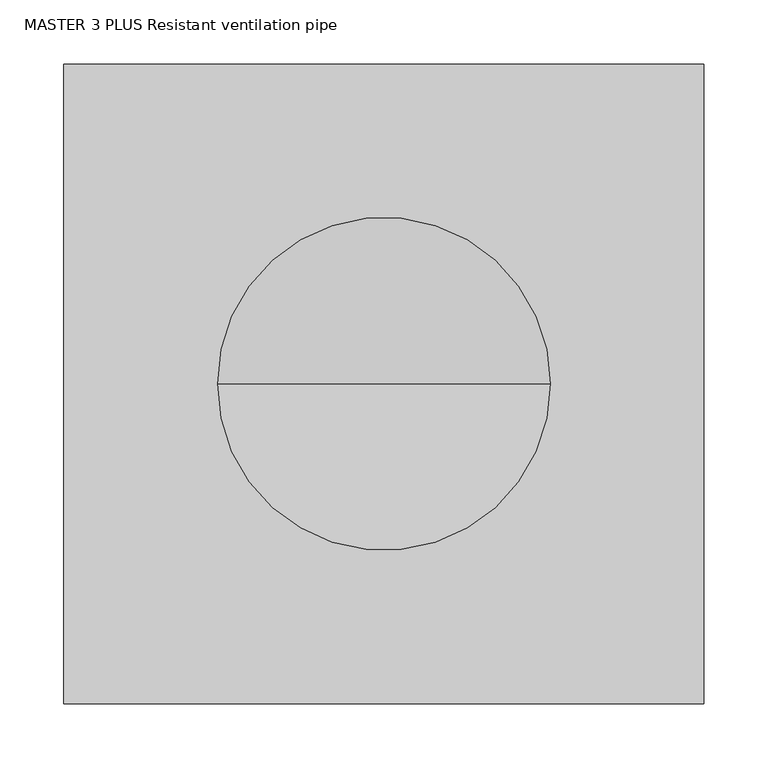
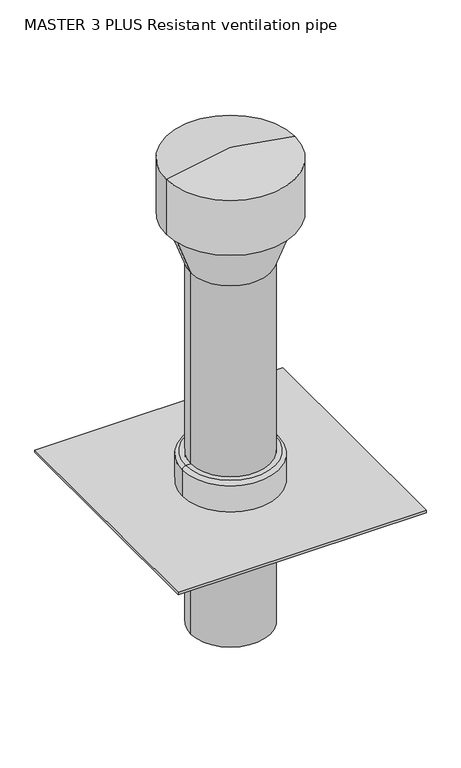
"""IFC4 building model written with IfcOpenShell, lengths in millimetres: valve geometry, MASTER 3 PLUS Resistant ventilation pipe : DN160, Lesp = 300, L3 = 710 mm."""

from ifc_helpers import new_model, si_unit, point, frame, origin, origin_with_axes, origin_2d, place, context, project, spatial, polyline, circle_curve, ellipse_curve, trimmed, segment, composite_curve, outline, extrude, source, transform, mapped, element, save
from ifc_brep_helpers import plane_surface, cylinder_surface, revolved_surface, advanced_brep


def master_3_plus_resistant_ventilation_pipe_50657e44(model_context):
    return source(origin(), model_context, "Body", "SolidModel", [
        extrude(outline(polyline([(250.0, 250.0), (250.0, -250.0), (-250.0, -250.0), (-250.0, 250.0), (250.0, 250.0)]), holes=[composite_curve([segment(trimmed(circle_curve(origin_2d(), 80.0), [point((-80.0, 0.0))], [point((80.0, 0.0))], True, "CARTESIAN"), True, "CONTINUOUS"), segment(trimmed(circle_curve(origin_2d(), 80.0), [point((80.0, 0.0))], [point((-80.0, 0.0))], True, "CARTESIAN"), True, "CONTINUOUS")], self_intersect=False)]), frame((0.0, 0.0, 294.9838403), z_axis=(0.0, 0.0, 1.0), x_axis=(1.0, 0.0, 0.0)), (0.0, 0.0, 1.0), 5.0161597),
        advanced_brep(
        [(97.5, 0.0, 300.0), (-97.5, 0.0, 300.0), (-97.5, 0.0, 355.75), (97.5, 0.0, 355.75), (80.0, 0.0, 300.0), (-80.0, 0.0, 300.0), (80.0, 0.0, 363.0), (-80.0, 0.0, 363.0), (90.25, 0.0, 363.0), (-90.25, 0.0, 363.0)],
        [
            (0, 1, circle_curve(frame((0.0, 0.0, 300.0), z_axis=(0.0, 0.0, 1.0), x_axis=(-1.0, 0.0, 0.0)), 97.5)),
            (1, 2),
            (2, 3, circle_curve(frame((0.0, 0.0, 355.75), z_axis=(0.0, 0.0, -1.0), x_axis=(-1.0, 0.0, 0.0)), 97.5)),
            (3, 0),
            (1, 0, circle_curve(frame((0.0, 0.0, 300.0), z_axis=(0.0, 0.0, 1.0), x_axis=(-1.0, 0.0, 0.0)), 97.5)),
            (3, 2, circle_curve(frame((0.0, 0.0, 355.75), z_axis=(0.0, 0.0, -1.0), x_axis=(-1.0, 0.0, 0.0)), 97.5)),
            (4, 5, circle_curve(frame((0.0, 0.0, 300.0), z_axis=(0.0, 0.0, 1.0), x_axis=(-1.0, 0.0, 0.0)), 80.0)),
            (5, 1),
            (0, 4),
            (5, 4, circle_curve(frame((0.0, 0.0, 300.0), z_axis=(0.0, 0.0, 1.0), x_axis=(-1.0, 0.0, 0.0)), 80.0)),
            (6, 7, circle_curve(frame((0.0, 0.0, 363.0), z_axis=(0.0, 0.0, 1.0), x_axis=(-1.0, 0.0, 0.0)), 80.0)),
            (7, 5),
            (4, 6),
            (7, 6, circle_curve(frame((0.0, 0.0, 363.0), z_axis=(0.0, 0.0, 1.0), x_axis=(-1.0, 0.0, 0.0)), 80.0)),
            (8, 9, circle_curve(frame((0.0, 0.0, 363.0), z_axis=(0.0, 0.0, 1.0), x_axis=(-1.0, 0.0, 0.0)), 90.25)),
            (9, 7),
            (6, 8),
            (9, 8, circle_curve(frame((0.0, 0.0, 363.0), z_axis=(0.0, 0.0, 1.0), x_axis=(-1.0, 0.0, 0.0)), 90.25)),
            (2, 9, circle_curve(frame((-90.25, 0.0, 355.75), z_axis=(0.0, 1.0, 0.0), x_axis=(1.0, 0.0, 0.0)), 7.25)),
            (8, 3, circle_curve(frame((90.25, 0.0, 355.75), z_axis=(0.0, 1.0, 0.0), x_axis=(-1.0, 0.0, 0.0)), 7.25)),
        ],
        [
            cylinder_surface(frame((0.0, 0.0, 363.0), z_axis=(0.0, 0.0, -1.0), x_axis=(-1.0, 0.0, 0.0)), 97.5),
            plane_surface(frame((0.0, 0.0, 300.0), z_axis=(0.0, 0.0, -1.0), x_axis=(-1.0, 0.0, 0.0))),
            revolved_surface(polyline([(-80.0, 0.0, 300.0), (-80.0, 0.0, 363.0)]), (0.0, 0.0, 363.0), (0.0, 0.0, -1.0)),
            plane_surface(frame((0.0, 0.0, 363.0), z_axis=(0.0, 0.0, 1.0), x_axis=(-1.0, 0.0, 0.0))),
            revolved_surface(trimmed(ellipse_curve(frame((-90.25, 0.0, 355.75), z_axis=(0.0, -1.0, 0.0), x_axis=(1.0, 0.0, 0.0)), 7.25, 7.25), [point((-90.25, 0.0, 363.0))], [point((-97.5, 0.0, 355.75))], True, "CARTESIAN"), (0.0, 0.0, 363.0), (0.0, 0.0, -1.0)),
        ],
        [
            (0, [[1, 2, 3, 4]]),
            (0, [[5, -4, 6, -2]]),
            (1, [[7, 8, -1, 9]]),
            (1, [[10, -9, -5, -8]]),
            (2, [[11, 12, -7, 13]]),
            (2, [[14, -13, -10, -12]]),
            (3, [[15, 16, -11, 17]]),
            (3, [[18, -17, -14, -16]]),
            (4, [[-3, 19, -15, 20]]),
            (4, [[-6, -20, -18, -19]]),
        ],
    ),
        advanced_brep(
        [(80.0, 0.0, 770.0), (-80.0, 0.0, 770.0), (-116.3970234, 0.0, 870.0), (116.3970234, 0.0, 870.0), (0.0, 0.0, 770.0), (130.0, 0.0, 987.0774925), (-130.0, 0.0, 987.0774925), (0.0, 0.0, 1010.0), (130.0, 0.0, 870.0), (-130.0, 0.0, 870.0)],
        [
            (0, 1, circle_curve(frame((0.0, 0.0, 770.0), z_axis=(0.0, 0.0, 1.0), x_axis=(-1.0, 0.0, 0.0)), 80.0)),
            (1, 2),
            (2, 3, circle_curve(frame((0.0, 0.0, 870.0), z_axis=(0.0, 0.0, -1.0), x_axis=(-1.0, 0.0, 0.0)), 116.3970234)),
            (3, 0),
            (1, 0, circle_curve(frame((0.0, 0.0, 770.0), z_axis=(0.0, 0.0, 1.0), x_axis=(-1.0, 0.0, 0.0)), 80.0)),
            (3, 2, circle_curve(frame((0.0, 0.0, 870.0), z_axis=(0.0, 0.0, -1.0), x_axis=(-1.0, 0.0, 0.0)), 116.3970234)),
            (4, 1),
            (0, 4),
            (5, 6, circle_curve(frame((0.0, 0.0, 987.0774925), z_axis=(0.0, 0.0, 1.0), x_axis=(-1.0, 0.0, 0.0)), 130.0)),
            (6, 7),
            (7, 5),
            (6, 5, circle_curve(frame((0.0, 0.0, 987.0774925), z_axis=(0.0, 0.0, 1.0), x_axis=(-1.0, 0.0, 0.0)), 130.0)),
            (8, 9, circle_curve(frame((0.0, 0.0, 870.0), z_axis=(0.0, 0.0, 1.0), x_axis=(-1.0, 0.0, 0.0)), 130.0)),
            (9, 6),
            (5, 8),
            (9, 8, circle_curve(frame((0.0, 0.0, 870.0), z_axis=(0.0, 0.0, 1.0), x_axis=(-1.0, 0.0, 0.0)), 130.0)),
            (2, 9),
            (8, 3),
        ],
        [
            revolved_surface(polyline([(-116.3970234, 0.0, 870.0), (-80.0, 0.0, 770.0)]), (0.0, 0.0, 1010.0), (0.0, 0.0, -1.0)),
            plane_surface(frame((0.0, 0.0, 770.0), z_axis=(0.0, 0.0, -1.0), x_axis=(-1.0, 0.0, 0.0))),
            revolved_surface(polyline([(0.0, 0.0, 1010.0), (-130.0, 0.0, 987.0774925)]), (0.0, 0.0, 1010.0), (0.0, 0.0, -1.0)),
            cylinder_surface(frame((0.0, 0.0, 1010.0), z_axis=(0.0, 0.0, -1.0), x_axis=(-1.0, 0.0, 0.0)), 130.0),
            plane_surface(frame((0.0, 0.0, 870.0), z_axis=(0.0, 0.0, -1.0), x_axis=(-1.0, 0.0, 0.0))),
        ],
        [
            (0, [[1, 2, 3, 4]]),
            (0, [[5, -4, 6, -2]]),
            (1, [[7, -1, 8]]),
            (1, [[-8, -5, -7]]),
            (2, [[9, 10, 11]]),
            (2, [[12, -11, -10]]),
            (3, [[13, 14, -9, 15]]),
            (3, [[16, -15, -12, -14]]),
            (4, [[-3, 17, -13, 18]]),
            (4, [[-6, -18, -16, -17]]),
        ],
    ),
        extrude(outline(composite_curve([segment(trimmed(circle_curve(origin_2d(), 80.0), [point((80.0, 0.0))], [point((-80.0, 0.0))], False, "CARTESIAN"), True, "CONTINUOUS"), segment(trimmed(circle_curve(origin_2d(), 80.0), [point((-80.0, 0.0))], [point((80.0, 0.0))], False, "CARTESIAN"), True, "CONTINUOUS")], self_intersect=False)), frame((0.0, 0.0, 300.0), z_axis=(0.0, 0.0, 1.0), x_axis=(1.0, 0.0, 0.0)), (0.0, 0.0, 1.0), 570.0),
        extrude(outline(composite_curve([segment(trimmed(circle_curve(origin_2d(), 80.0), [point((-80.0, 0.0))], [point((80.0, 0.0))], False, "CARTESIAN"), True, "CONTINUOUS"), segment(trimmed(circle_curve(origin_2d(), 80.0), [point((80.0, 0.0))], [point((-80.0, 0.0))], False, "CARTESIAN"), True, "CONTINUOUS")], self_intersect=False)), origin_with_axes(), (0.0, 0.0, 1.0), 294.9838403),
    ])


if __name__ == "__main__":
    model = new_model("IFC4")
    model_context = context("Model", 3, world=origin())
    ifc_project = project(units=[si_unit("LENGTHUNIT", "METRE", prefix="MILLI")], contexts=[model_context])
    site = spatial("IfcSite", under=ifc_project)
    building = spatial("IfcBuilding", under=site)
    placement = place(None, origin())
    master_3_plus_resistant_ventilation_pipe_shape = master_3_plus_resistant_ventilation_pipe_50657e44(model_context)
    element("IfcValve", 1, ObjectType="MASTER 3 PLUS Resistant ventilation pipe : DN160, Lesp = 300, L3 = 710 mm", at=placement, inside=building, context=model_context, shape_type="MappedRepresentation", body=[
        mapped(master_3_plus_resistant_ventilation_pipe_shape, transform((0.0, 0.0, 0.0), x_axis=(1.0, 0.0, 0.0), y_axis=(0.0, 1.0, 0.0), z_axis=(0.0, 0.0, 1.0))),
    ])
    save(model, "model.ifc")
